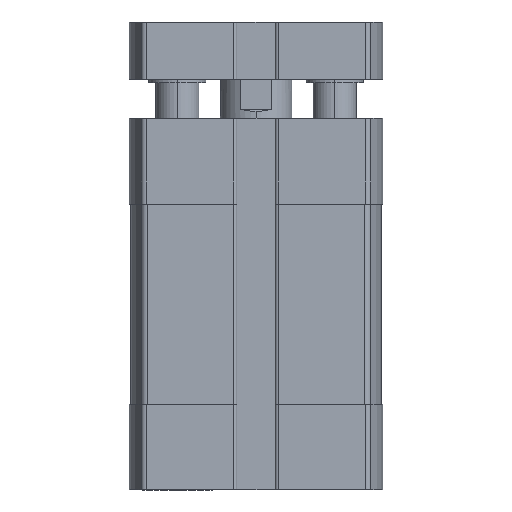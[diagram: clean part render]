
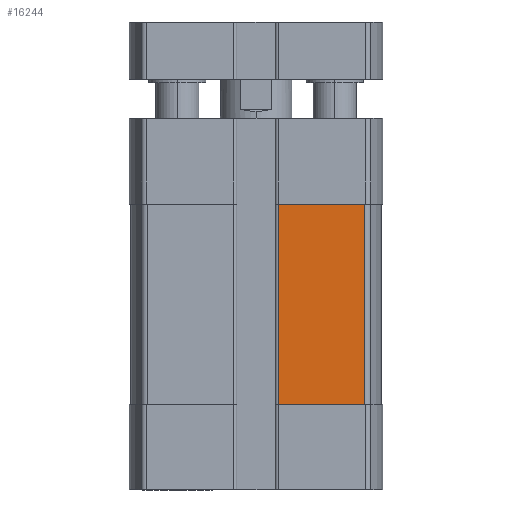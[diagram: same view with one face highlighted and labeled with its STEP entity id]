
A CAD part, front view. The second image highlights one B-rep face of the part: STEP entity #16244.
In plain terms, the highlighted planar face has unit normal (0, -1, 0) as drawn and (-1, 0, 0) by its records, which use the part's own axes.
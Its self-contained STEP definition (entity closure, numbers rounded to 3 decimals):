
#82 = EDGE_CURVE ( 'NONE', #3262, #6817, #5603, .T. ) ;
#323 = EDGE_CURVE ( 'NONE', #16171, #3262, #927, .T. ) ;
#927 = LINE ( 'NONE', #5062, #1158 ) ;
#1158 = VECTOR ( 'NONE', #1853, 1000. ) ;
#1853 = DIRECTION ( 'NONE',  ( 0., -1., 0. ) ) ;
#2192 = CARTESIAN_POINT ( 'NONE',  ( -17.5, -3.1, -40. ) ) ;
#3262 = VERTEX_POINT ( 'NONE', #4734 ) ;
#3428 = CARTESIAN_POINT ( 'NONE',  ( -17.5, -3.1, -40. ) ) ;
#3880 = VERTEX_POINT ( 'NONE', #17062 ) ;
#4734 = CARTESIAN_POINT ( 'NONE',  ( -17.5, -15.253, -40. ) ) ;
#4890 = CARTESIAN_POINT ( 'NONE',  ( -17.5, 0., -12. ) ) ;
#5062 = CARTESIAN_POINT ( 'NONE',  ( -17.5, -3.1, -40. ) ) ;
#5603 = LINE ( 'NONE', #11195, #8133 ) ;
#6025 = DIRECTION ( 'NONE',  ( 0., 0., 1. ) ) ;
#6375 = ORIENTED_EDGE ( 'NONE', *, *, #82, .T. ) ;
#6817 = VERTEX_POINT ( 'NONE', #12615 ) ;
#7853 = LINE ( 'NONE', #4890, #14066 ) ;
#8133 = VECTOR ( 'NONE', #12683, 1000. ) ;
#8849 = CARTESIAN_POINT ( 'NONE',  ( -17.5, -3.1, -40. ) ) ;
#9137 = DIRECTION ( 'NONE',  ( 0., 1., 0. ) ) ;
#9169 = EDGE_CURVE ( 'NONE', #6817, #3880, #7853, .T. ) ;
#9511 = DIRECTION ( 'NONE',  ( -1., 0., 0. ) ) ;
#9650 = DIRECTION ( 'NONE',  ( 0., 0., 1. ) ) ;
#10154 = LINE ( 'NONE', #8849, #14543 ) ;
#11195 = CARTESIAN_POINT ( 'NONE',  ( -17.5, -15.253, -40. ) ) ;
#11286 = ORIENTED_EDGE ( 'NONE', *, *, #9169, .T. ) ;
#12615 = CARTESIAN_POINT ( 'NONE',  ( -17.5, -15.253, -12. ) ) ;
#12683 = DIRECTION ( 'NONE',  ( 0., 0., 1. ) ) ;
#14028 = PLANE ( 'NONE',  #16058 ) ;
#14066 = VECTOR ( 'NONE', #9137, 1000. ) ;
#14543 = VECTOR ( 'NONE', #6025, 1000. ) ;
#14602 = ORIENTED_EDGE ( 'NONE', *, *, #323, .T. ) ;
#16058 = AXIS2_PLACEMENT_3D ( 'NONE', #2192, #9511, #9650 ) ;
#16171 = VERTEX_POINT ( 'NONE', #3428 ) ;
#16244 = ADVANCED_FACE ( 'NONE', ( #17350 ), #14028, .T. ) ;
#17062 = CARTESIAN_POINT ( 'NONE',  ( -17.5, -3.1, -12. ) ) ;
#17110 = EDGE_CURVE ( 'NONE', #16171, #3880, #10154, .T. ) ;
#17341 = EDGE_LOOP ( 'NONE', ( #14602, #6375, #11286, #17522 ) ) ;
#17350 = FACE_OUTER_BOUND ( 'NONE', #17341, .T. ) ;
#17522 = ORIENTED_EDGE ( 'NONE', *, *, #17110, .F. ) ;
